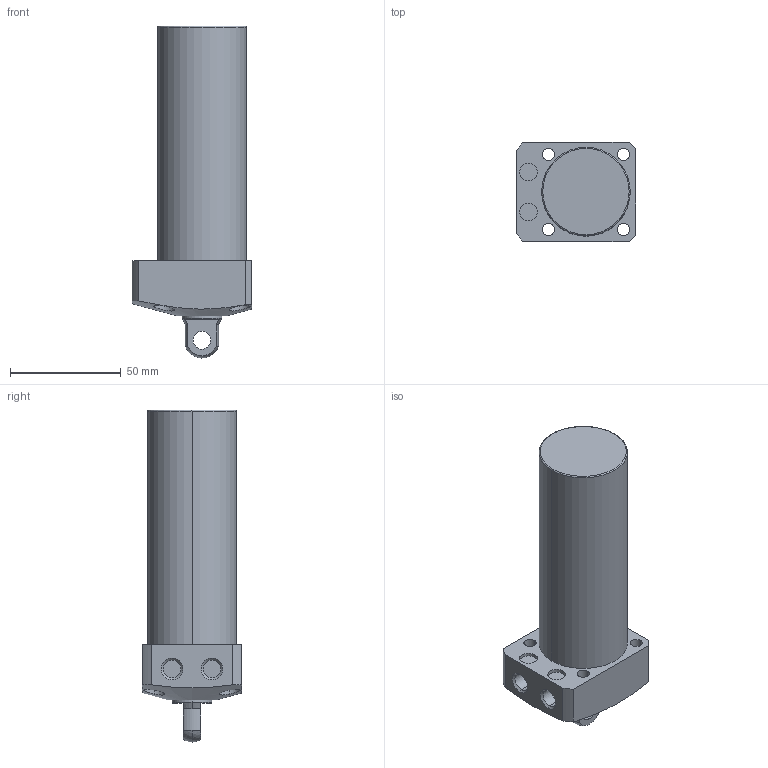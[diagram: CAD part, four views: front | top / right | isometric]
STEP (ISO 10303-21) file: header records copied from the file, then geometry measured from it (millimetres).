
FILE_DESCRIPTION (( 'STEP AP203' ), '1' );
FILE_NAME ('CLL040-CP-080.STEP', '2017-05-17T08:00:34', ( '' ), ( '' ), 'SwSTEP 2.0', 'SolidWorks 2015', '' );
FILE_SCHEMA (( 'CONFIG_CONTROL_DESIGN' ));
Length unit declared in the file: millimetre
Products named in the file (1): CLL040-CP-080
Bounding box: 54 x 45 x 150 mm (x, y, z)
Volume: 184458.8 mm3; surface area: 25333.7 mm2
Topology: 1 solids, 1 shells, 68 faces, 159 edges, 103 vertices
Faces by surface type: cylinder 35, plane 21, cone 8, sphere 2, torus 2
Entity records: 2372 total; most frequent: CARTESIAN_POINT 675, DIRECTION 357, ORIENTED_EDGE 318, EDGE_CURVE 159, AXIS2_PLACEMENT_3D 149, VERTEX_POINT 103, EDGE_LOOP 88, CIRCLE 80
